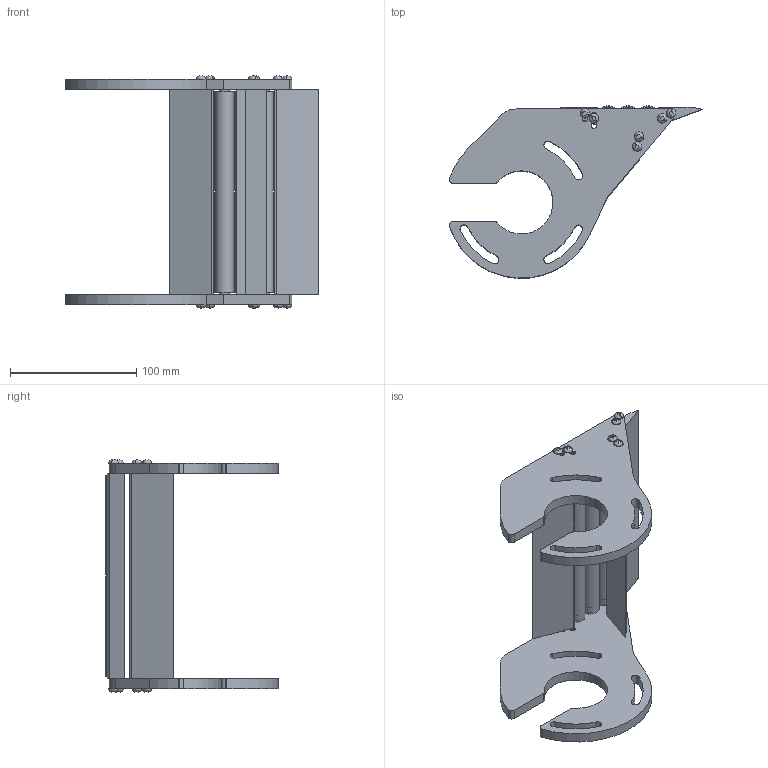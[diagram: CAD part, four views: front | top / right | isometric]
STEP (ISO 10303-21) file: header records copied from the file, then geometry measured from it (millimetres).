
FILE_DESCRIPTION (( 'STEP AP214' ), '1' );
FILE_NAME ('CAB 6 TGRI 2.STEP', '2024-02-27T08:03:26', ( '' ), ( '' ), 'SwSTEP 2.0', 'SolidWorks 2022', '' );
FILE_SCHEMA (( 'AUTOMOTIVE_DESIGN' ));
Length unit declared in the file: millimetre
Products named in the file (10): Galet + roulement CAB 6; ENTRETOISE TGRI CAB-F2-R-HEF; PSTI CAB 2 Symétrie; CAB 6 TGRI 2; ROULEMENT TGRI CAB FLEXTOO; PSTI CAB 2; PT-F2 - CAB 6; TBHC 4X16; AXE TGRI CAB 6; GR CAB 6
Assembly tree (32 placements, depth 3):
  CAB 6 TGRI 2
    PSTI CAB 2 Symétrie
    PSTI CAB 2
    PT-F2 - CAB 6  x3
    AXE TGRI CAB 6  x3
    ENTRETOISE TGRI CAB-F2-R-HEF  x6
    Galet + roulement CAB 6  x3
      GR CAB 6
      ROULEMENT TGRI CAB FLEXTOO
    TBHC 4X16  x12
Bounding box: 200.67 x 136.6 x 183.78 mm (x, y, z)
Volume: 392832.9 mm3; surface area: 163844.4 mm2
Topology: 35 solids, 35 shells, 2075 faces, 4409 edges, 2434 vertices
Faces by surface type: cone 1480, cylinder 284, plane 239, torus 72
Entity records: 12062 total; most frequent: DIRECTION 2157, CARTESIAN_POINT 1995, ORIENTED_EDGE 1802, EDGE_CURVE 901, AXIS2_PLACEMENT_3D 860, VERTEX_POINT 554, CIRCLE 450, VECTOR 437
